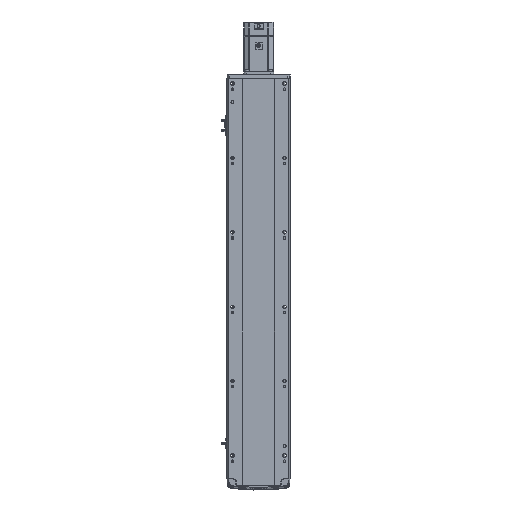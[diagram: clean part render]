
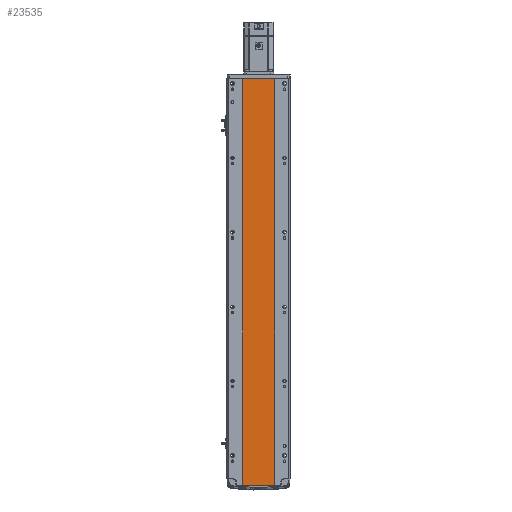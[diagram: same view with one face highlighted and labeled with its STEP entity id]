
A CAD part, front view. The second image highlights one B-rep face of the part: STEP entity #23535.
In plain terms, the highlighted planar face has unit normal (0, -1, 0).
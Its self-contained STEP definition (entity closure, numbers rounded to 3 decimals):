
#640 = EDGE_CURVE ( 'NONE', #26303, #7499, #25221, .T. ) ;
#1576 = ORIENTED_EDGE ( 'NONE', *, *, #45875, .F. ) ;
#2089 = ORIENTED_EDGE ( 'NONE', *, *, #30252, .T. ) ;
#3775 = CARTESIAN_POINT ( 'NONE',  ( -41.791, 1., 1093.5 ) ) ;
#4752 = VERTEX_POINT ( 'NONE', #25145 ) ;
#7404 = CARTESIAN_POINT ( 'NONE',  ( 0., 0.999, 1093.5 ) ) ;
#7499 = VERTEX_POINT ( 'NONE', #12072 ) ;
#9066 = PLANE ( 'NONE',  #31380 ) ;
#10646 = ORIENTED_EDGE ( 'NONE', *, *, #640, .T. ) ;
#10738 = CARTESIAN_POINT ( 'NONE',  ( 0., 0.999, 0. ) ) ;
#12072 = CARTESIAN_POINT ( 'NONE',  ( 41.793, 0.998, 0. ) ) ;
#13738 = VECTOR ( 'NONE', #40431, 1000. ) ;
#14333 = VECTOR ( 'NONE', #31492, 1000. ) ;
#14678 = EDGE_LOOP ( 'NONE', ( #10646, #36823, #1576, #2089 ) ) ;
#15630 = DIRECTION ( 'NONE',  ( 1., 0., 0. ) ) ;
#18252 = VECTOR ( 'NONE', #15630, 1000. ) ;
#19129 = LINE ( 'NONE', #24211, #44732 ) ;
#21570 = DIRECTION ( 'NONE',  ( -1., 0., 0. ) ) ;
#23535 = ADVANCED_FACE ( 'NONE', ( #42261 ), #9066, .F. ) ;
#24211 = CARTESIAN_POINT ( 'NONE',  ( 41.793, 0.998, 1093.5 ) ) ;
#24627 = LINE ( 'NONE', #3775, #13738 ) ;
#25145 = CARTESIAN_POINT ( 'NONE',  ( -41.791, 1., 1093.5 ) ) ;
#25221 = LINE ( 'NONE', #10738, #14333 ) ;
#26303 = VERTEX_POINT ( 'NONE', #50051 ) ;
#30252 = EDGE_CURVE ( 'NONE', #4752, #26303, #24627, .T. ) ;
#31380 = AXIS2_PLACEMENT_3D ( 'NONE', #50417, #38417, #21570 ) ;
#31492 = DIRECTION ( 'NONE',  ( 1., 0., 0. ) ) ;
#36718 = DIRECTION ( 'NONE',  ( 0., 0., -1. ) ) ;
#36823 = ORIENTED_EDGE ( 'NONE', *, *, #39595, .F. ) ;
#38417 = DIRECTION ( 'NONE',  ( 0., 1., 0. ) ) ;
#39595 = EDGE_CURVE ( 'NONE', #51022, #7499, #19129, .T. ) ;
#40431 = DIRECTION ( 'NONE',  ( 0., 0., -1. ) ) ;
#41267 = LINE ( 'NONE', #7404, #18252 ) ;
#42261 = FACE_OUTER_BOUND ( 'NONE', #14678, .T. ) ;
#42870 = CARTESIAN_POINT ( 'NONE',  ( 41.793, 0.998, 1093.5 ) ) ;
#44732 = VECTOR ( 'NONE', #36718, 1000. ) ;
#45875 = EDGE_CURVE ( 'NONE', #4752, #51022, #41267, .T. ) ;
#50051 = CARTESIAN_POINT ( 'NONE',  ( -41.791, 1., 0. ) ) ;
#50417 = CARTESIAN_POINT ( 'NONE',  ( 0., 0.999, 1093.5 ) ) ;
#51022 = VERTEX_POINT ( 'NONE', #42870 ) ;
